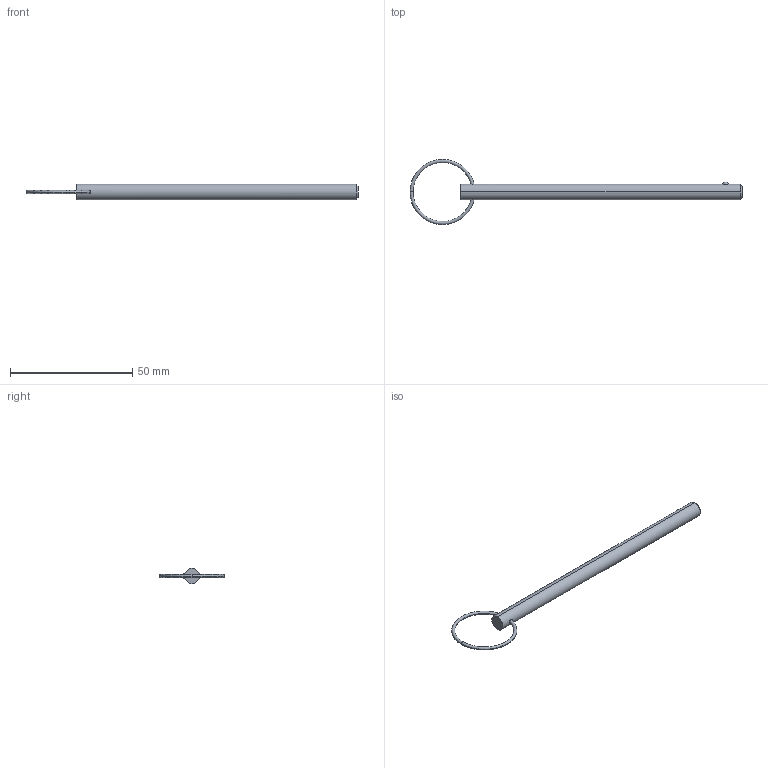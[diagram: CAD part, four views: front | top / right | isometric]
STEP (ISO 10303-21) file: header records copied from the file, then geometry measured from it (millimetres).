
FILE_DESCRIPTION (( 'STEP AP203' ), '1' );
FILE_NAME ('33012.W2540.step', '2024-11-01T14:07:44', ( '' ), ( '' ), 'SwSTEP 2.0', 'SolidWorks 2019', '' );
FILE_SCHEMA (( 'CONFIG_CONTROL_DESIGN' ));
Length unit declared in the file: millimetre
Products named in the file (3): Part1_33012.W2540; 33012.W2540; Part2_33012.W2540
Assembly tree (2 placements, depth 2):
  33012.W2540
    Part1_33012.W2540
    Part2_33012.W2540
Bounding box: 135.97 x 26.67 x 6.35 mm (x, y, z)
Volume: 3730.8 mm3; surface area: 2698.6 mm2
Topology: 2 solids, 2 shells, 16 faces, 31 edges, 18 vertices
Faces by surface type: torus 8, sphere 2, cone 2, cylinder 2, plane 2
Entity records: 811 total; most frequent: CARTESIAN_POINT 168, DIRECTION 88, ORIENTED_EDGE 62, AXIS2_PLACEMENT_3D 42, EDGE_CURVE 31, PERSON_AND_ORGANIZATION 26, CIRCLE 21, EDGE_LOOP 19
